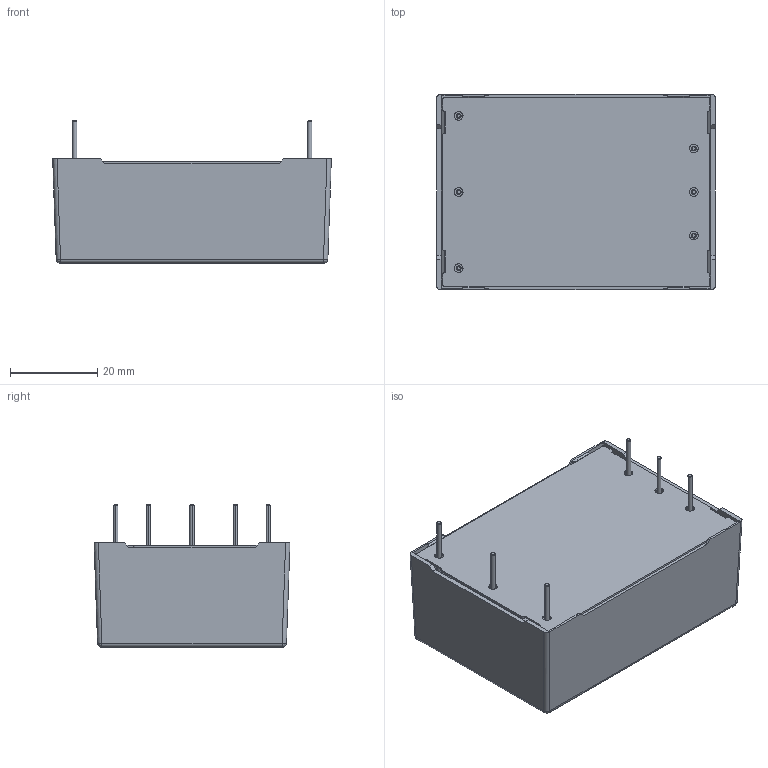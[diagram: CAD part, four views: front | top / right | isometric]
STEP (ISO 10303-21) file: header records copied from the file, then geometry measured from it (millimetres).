
FILE_DESCRIPTION (( 'STEP AP214' ), '1' );
FILE_NAME ('tms15-pcb-dual.STEP', '2015-12-22T13:47:29', ( '' ), ( '' ), 'SwSTEP 2.0', 'SolidWorks 2013', '' );
FILE_SCHEMA (( 'AUTOMOTIVE_DESIGN' ));
Length unit declared in the file: millimetre
Products named in the file (5): Base; Pin; Board; Case; tms15-pcb-dual
Assembly tree (9 placements, depth 2):
  tms15-pcb-dual
    Case
    Board
    Pin  x6
    Base
Bounding box: 64 x 45 x 32.8 mm (x, y, z)
Volume: 11089.7 mm3; surface area: 26147.9 mm2
Topology: 12 solids, 12 shells, 327 faces, 845 edges, 546 vertices
Faces by surface type: plane 187, cylinder 94, cone 24, bspline 18, sphere 4
Entity records: 12393 total; most frequent: CARTESIAN_POINT 1952, ORIENTED_EDGE 1530, DIRECTION 1361, EDGE_CURVE 765, LINE 575, VECTOR 575, VERTEX_POINT 496, AXIS2_PLACEMENT_3D 393
